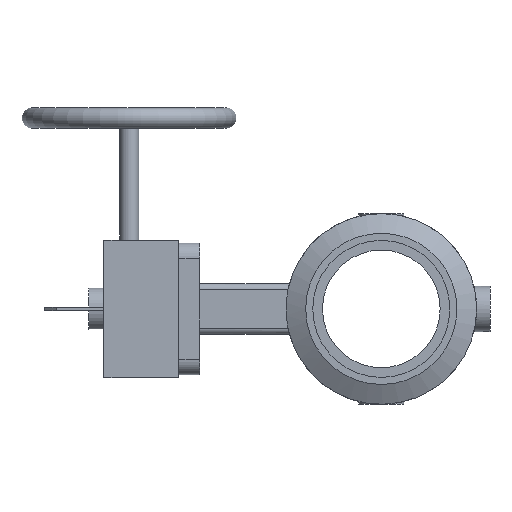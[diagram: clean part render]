
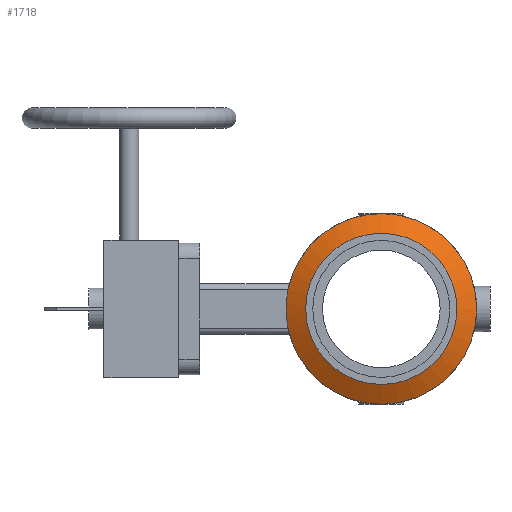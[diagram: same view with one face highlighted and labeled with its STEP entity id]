
A CAD part, left-side view. The second image highlights one B-rep face of the part: STEP entity #1718.
In plain terms, the highlighted conical face has half-angle 61.769 degrees and reference radius 45.549 mm.
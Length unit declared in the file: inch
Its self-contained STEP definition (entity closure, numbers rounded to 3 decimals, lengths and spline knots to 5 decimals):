
#43=CONICAL_SURFACE('',#1889,1.79325,1.078);
#106=CIRCLE('',#1802,2.);
#108=CIRCLE('',#1804,2.);
#151=CIRCLE('',#1885,1.58651);
#152=CIRCLE('',#1886,1.58651);
#155=CIRCLE('',#1890,2.);
#250=FACE_OUTER_BOUND('',#354,.T.);
#354=EDGE_LOOP('',(#1291,#1292,#1293,#1294,#1295,#1296,#1297));
#483=LINE('',#3087,#596);
#596=VECTOR('',#2270,1.79325);
#664=VERTEX_POINT('',#2576);
#665=VERTEX_POINT('',#2578);
#672=VERTEX_POINT('',#2619);
#747=VERTEX_POINT('',#3077);
#748=VERTEX_POINT('',#3078);
#838=EDGE_CURVE('',#664,#665,#106,.T.);
#846=EDGE_CURVE('',#672,#664,#108,.T.);
#950=EDGE_CURVE('',#747,#748,#151,.T.);
#951=EDGE_CURVE('',#748,#747,#152,.T.);
#954=EDGE_CURVE('',#665,#672,#155,.T.);
#955=EDGE_CURVE('',#664,#748,#483,.T.);
#1291=ORIENTED_EDGE('',*,*,#954,.F.);
#1292=ORIENTED_EDGE('',*,*,#838,.F.);
#1293=ORIENTED_EDGE('',*,*,#955,.T.);
#1294=ORIENTED_EDGE('',*,*,#951,.T.);
#1295=ORIENTED_EDGE('',*,*,#950,.T.);
#1296=ORIENTED_EDGE('',*,*,#955,.F.);
#1297=ORIENTED_EDGE('',*,*,#846,.F.);
#1718=ADVANCED_FACE('',(#250),#43,.T.);
#1802=AXIS2_PLACEMENT_3D('',#2579,#2050,#2051);
#1804=AXIS2_PLACEMENT_3D('',#2630,#2056,#2057);
#1885=AXIS2_PLACEMENT_3D('',#3079,#2258,#2259);
#1886=AXIS2_PLACEMENT_3D('',#3080,#2260,#2261);
#1889=AXIS2_PLACEMENT_3D('',#3085,#2266,#2267);
#1890=AXIS2_PLACEMENT_3D('',#3086,#2268,#2269);
#2050=DIRECTION('center_axis',(1.,0.,0.));
#2051=DIRECTION('ref_axis',(0.,0.,-1.));
#2056=DIRECTION('center_axis',(1.,0.,0.));
#2057=DIRECTION('ref_axis',(0.,0.,-1.));
#2258=DIRECTION('center_axis',(1.,0.,0.));
#2259=DIRECTION('ref_axis',(0.,0.,-1.));
#2260=DIRECTION('center_axis',(1.,0.,0.));
#2261=DIRECTION('ref_axis',(0.,0.,-1.));
#2266=DIRECTION('center_axis',(1.,0.,0.));
#2267=DIRECTION('ref_axis',(0.,1.,0.));
#2268=DIRECTION('center_axis',(1.,0.,0.));
#2269=DIRECTION('ref_axis',(0.,1.,0.));
#2270=DIRECTION('',(-0.473,0.881,0.));
#2576=CARTESIAN_POINT('',(-0.53,-2.,0.));
#2578=CARTESIAN_POINT('',(-0.53,1.95856,-0.405));
#2579=CARTESIAN_POINT('Origin',(-0.53,0.,
0.));
#2619=CARTESIAN_POINT('',(-0.53,1.95856,0.405));
#2630=CARTESIAN_POINT('Origin',(-0.53,0.,
0.));
#3077=CARTESIAN_POINT('',(-0.752,1.58651,0.));
#3078=CARTESIAN_POINT('',(-0.752,-1.58651,0.));
#3079=CARTESIAN_POINT('Origin',(-0.752,0.,
0.));
#3080=CARTESIAN_POINT('Origin',(-0.752,0.,
0.));
#3085=CARTESIAN_POINT('Origin',(-0.641,0.,0.));
#3086=CARTESIAN_POINT('Origin',(-0.53,0.,
0.));
#3087=CARTESIAN_POINT('',(-0.641,-1.79325,0.));
